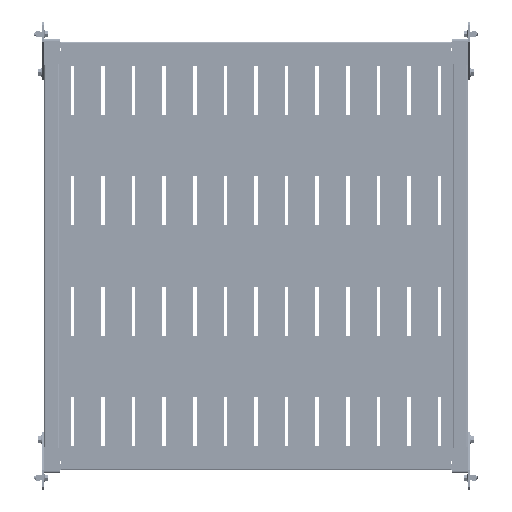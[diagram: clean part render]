
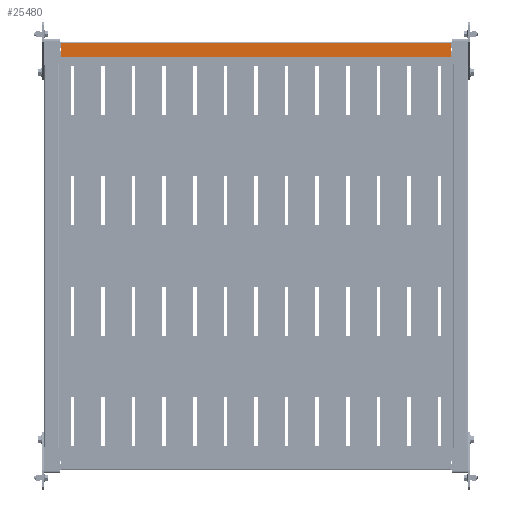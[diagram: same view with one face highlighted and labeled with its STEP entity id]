
A CAD part, front view. The second image highlights one B-rep face of the part: STEP entity #25480.
In plain terms, the highlighted planar face has unit normal (0, -1, 0).
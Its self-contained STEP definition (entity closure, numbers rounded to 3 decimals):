
#2395 = DIRECTION ( 'NONE',  ( 0., 1., 0. ) ) ;
#3530 = CARTESIAN_POINT ( 'NONE',  ( 347.9, -45., 319.5 ) ) ;
#4213 = EDGE_LOOP ( 'NONE', ( #51719, #53080, #90039, #45123, #22568, #49507 ) ) ;
#7314 = VECTOR ( 'NONE', #28989, 1000. ) ;
#9678 = AXIS2_PLACEMENT_3D ( 'NONE', #26489, #86167, #71299 ) ;
#15081 = EDGE_CURVE ( 'NONE', #39847, #61331, #78032, .T. ) ;
#16001 = LINE ( 'NONE', #74258, #49267 ) ;
#17236 = DIRECTION ( 'NONE',  ( -1., 0., 0. ) ) ;
#20205 = VERTEX_POINT ( 'NONE', #64001 ) ;
#20395 = DIRECTION ( 'NONE',  ( -1., 0., 0. ) ) ;
#20644 = CARTESIAN_POINT ( 'NONE',  ( 0., -45., -319.5 ) ) ;
#21122 = LINE ( 'NONE', #20644, #75953 ) ;
#22568 = ORIENTED_EDGE ( 'NONE', *, *, #24533, .T. ) ;
#24533 = EDGE_CURVE ( 'NONE', #59065, #20205, #21122, .T. ) ;
#25480 = ADVANCED_FACE ( 'NONE', ( #68325 ), #55454, .F. ) ;
#26489 = CARTESIAN_POINT ( 'NONE',  ( 328.5, -45., -316.5 ) ) ;
#28989 = DIRECTION ( 'NONE',  ( 0., 0., -1. ) ) ;
#29932 = LINE ( 'NONE', #52836, #7314 ) ;
#31154 = EDGE_CURVE ( 'NONE', #84122, #48316, #29932, .T. ) ;
#38934 = AXIS2_PLACEMENT_3D ( 'NONE', #57634, #58580, #20395 ) ;
#39847 = VERTEX_POINT ( 'NONE', #3530 ) ;
#42864 = CARTESIAN_POINT ( 'NONE',  ( 328.5, -45., -319.5 ) ) ;
#43439 = CARTESIAN_POINT ( 'NONE',  ( 328.5, -45., 319.5 ) ) ;
#45123 = ORIENTED_EDGE ( 'NONE', *, *, #87550, .T. ) ;
#48316 = VERTEX_POINT ( 'NONE', #75466 ) ;
#49267 = VECTOR ( 'NONE', #74721, 1000. ) ;
#49453 = CARTESIAN_POINT ( 'NONE',  ( 0., -45., 319.5 ) ) ;
#49507 = ORIENTED_EDGE ( 'NONE', *, *, #80603, .F. ) ;
#51719 = ORIENTED_EDGE ( 'NONE', *, *, #15081, .T. ) ;
#52059 = EDGE_CURVE ( 'NONE', #61331, #84122, #81629, .T. ) ;
#52836 = CARTESIAN_POINT ( 'NONE',  ( 325.5, -45., 0. ) ) ;
#53080 = ORIENTED_EDGE ( 'NONE', *, *, #52059, .T. ) ;
#55454 = PLANE ( 'NONE',  #72216 ) ;
#57634 = CARTESIAN_POINT ( 'NONE',  ( 328.5, -45., 316.5 ) ) ;
#58580 = DIRECTION ( 'NONE',  ( 0., -1., 0. ) ) ;
#59065 = VERTEX_POINT ( 'NONE', #42864 ) ;
#61331 = VERTEX_POINT ( 'NONE', #43439 ) ;
#64001 = CARTESIAN_POINT ( 'NONE',  ( 347.9, -45., -319.5 ) ) ;
#68325 = FACE_OUTER_BOUND ( 'NONE', #4213, .T. ) ;
#71299 = DIRECTION ( 'NONE',  ( -1., 0., 0. ) ) ;
#72216 = AXIS2_PLACEMENT_3D ( 'NONE', #84605, #2395, #17236 ) ;
#74258 = CARTESIAN_POINT ( 'NONE',  ( 347.9, -45., -319.5 ) ) ;
#74721 = DIRECTION ( 'NONE',  ( 0., 0., -1. ) ) ;
#75466 = CARTESIAN_POINT ( 'NONE',  ( 325.5, -45., -316.5 ) ) ;
#75953 = VECTOR ( 'NONE', #78390, 1000. ) ;
#78032 = LINE ( 'NONE', #49453, #80904 ) ;
#78355 = CIRCLE ( 'NONE', #9678, 3. ) ;
#78390 = DIRECTION ( 'NONE',  ( 1., 0., 0. ) ) ;
#80603 = EDGE_CURVE ( 'NONE', #39847, #20205, #16001, .T. ) ;
#80904 = VECTOR ( 'NONE', #93876, 1000. ) ;
#81629 = CIRCLE ( 'NONE', #38934, 3. ) ;
#83793 = CARTESIAN_POINT ( 'NONE',  ( 325.5, -45., 316.5 ) ) ;
#84122 = VERTEX_POINT ( 'NONE', #83793 ) ;
#84605 = CARTESIAN_POINT ( 'NONE',  ( 0., -45., 0. ) ) ;
#86167 = DIRECTION ( 'NONE',  ( 0., -1., 0. ) ) ;
#87550 = EDGE_CURVE ( 'NONE', #48316, #59065, #78355, .T. ) ;
#90039 = ORIENTED_EDGE ( 'NONE', *, *, #31154, .T. ) ;
#93876 = DIRECTION ( 'NONE',  ( -1., 0., 0. ) ) ;
